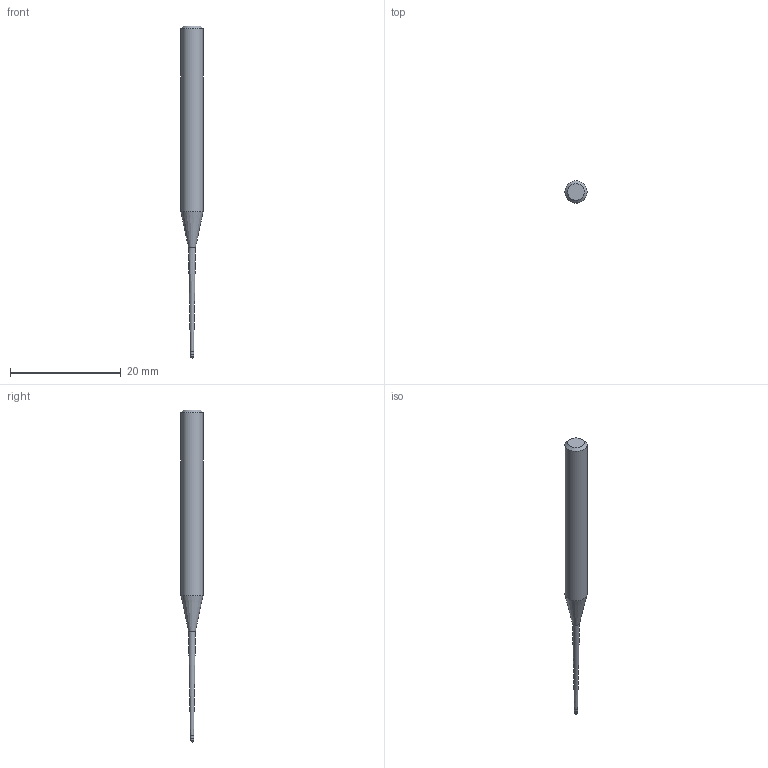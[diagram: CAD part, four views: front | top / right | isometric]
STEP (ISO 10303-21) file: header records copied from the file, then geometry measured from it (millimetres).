
FILE_DESCRIPTION((''),'2;1');
FILE_NAME('C:\Users\nsx150\AppData\Local\Temp\Mastercam 2021\SNAKH10GOD\TEMP.step','2021-10-21T13:31:30',(''),(''),'STEP Write','Mastercam 2021 ... CNC Software, Inc.','');
FILE_SCHEMA(('AUTOMOTIVE_DESIGN'));
Length unit declared in the file: millimetre
Products named in the file (1): None
Bounding box: 4 x 4 x 60 mm (x, y, z)
Volume: 471.8 mm3; surface area: 541.9 mm2
Topology: 2 solids, 2 shells, 10 faces, 16 edges, 9 vertices
Faces by surface type: plane 3, cylinder 3, cone 3, sphere 1
Full cylindrical faces by diameter (mm): 0.585 x1, 0.6 x1, 4 x1
Entity records: 232 total; most frequent: DIRECTION 40, CARTESIAN_POINT 28, AXIS2_PLACEMENT_3D 20, ORIENTED_EDGE 16, EDGE_LOOP 16, STYLED_ITEM 13, ADVANCED_FACE 10, FACE_BOUND 9
